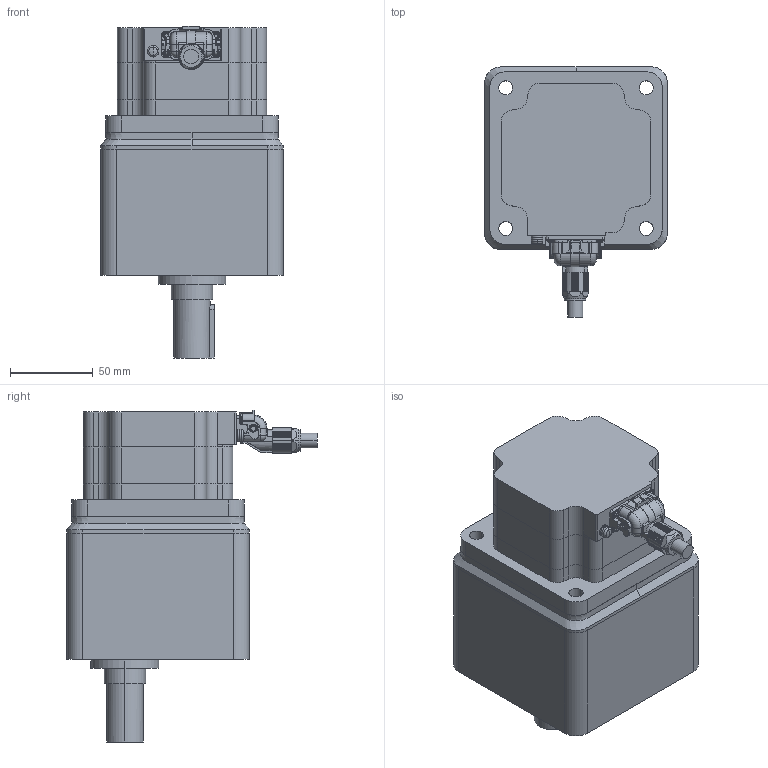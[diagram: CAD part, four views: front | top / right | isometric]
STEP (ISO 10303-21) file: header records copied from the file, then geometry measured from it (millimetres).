
FILE_DESCRIPTION (( 'STEP AP203' ), '1' );
FILE_NAME ('A1731C_V.step', '2025-09-25T02:24:35', ( '' ), ( '' ), 'SwSTEP 2.0', 'SolidWorks 2023', '' );
FILE_SCHEMA (( 'CONFIG_CONTROL_DESIGN' ));
Length unit declared in the file: millimetre
Products named in the file (1): A1731C_V
Bounding box: 110 x 150.9 x 200.2 mm (x, y, z)
Volume: 1537042.6 mm3; surface area: 124440.2 mm2
Topology: 2 solids, 8 shells, 681 faces, 1859 edges, 1210 vertices
Faces by surface type: plane 367, cylinder 276, cone 14, torus 12, bspline 8, sphere 4
Entity records: 23120 total; most frequent: CARTESIAN_POINT 5526, ORIENTED_EDGE 3706, DIRECTION 3680, EDGE_CURVE 1853, AXIS2_PLACEMENT_3D 1269, VERTEX_POINT 1210, VECTOR 1142, LINE 1142
